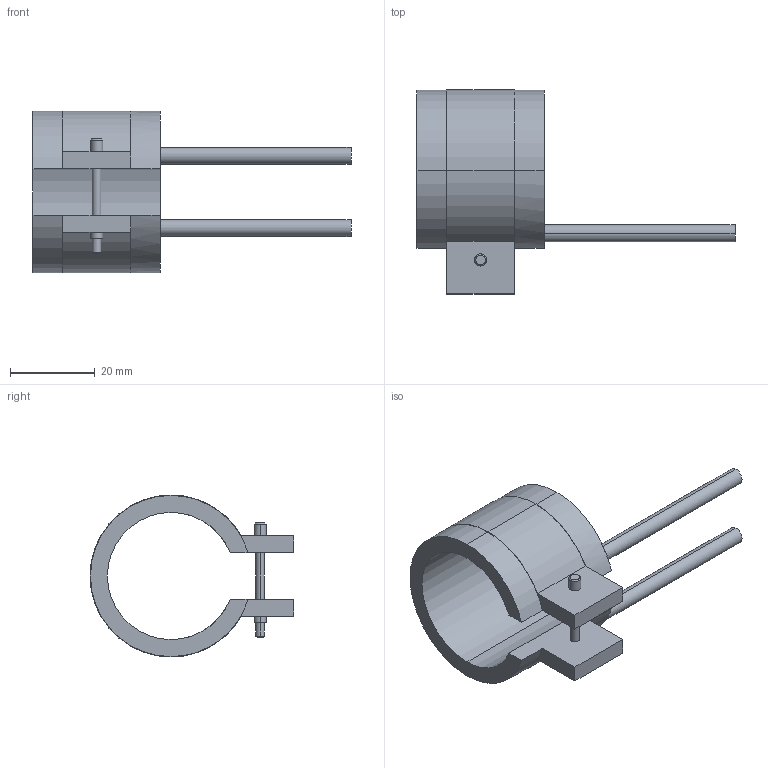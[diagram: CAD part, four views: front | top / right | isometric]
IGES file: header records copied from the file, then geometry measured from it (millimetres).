
Start section: START RECORD GO HERE.
Global section: file name: 14030030.igs; native system: DASSAULT SYSTEMES CATIA V5 R20 - www.3ds.com; preprocessor: CATIA Version 5 Release 20 ; author: Utente; organization: NB04-ASUS; date: 20210331.134108; units: millimetre
Bounding box: 75 x 48.1 x 38.2 mm (x, y, z)
Surface area: 8955.8 mm2 (no closed solid volume)
Topology: 0 solids, 0 shells, 45 faces, 232 edges, 232 vertices
Faces by surface type: revolution 28, plane 17
